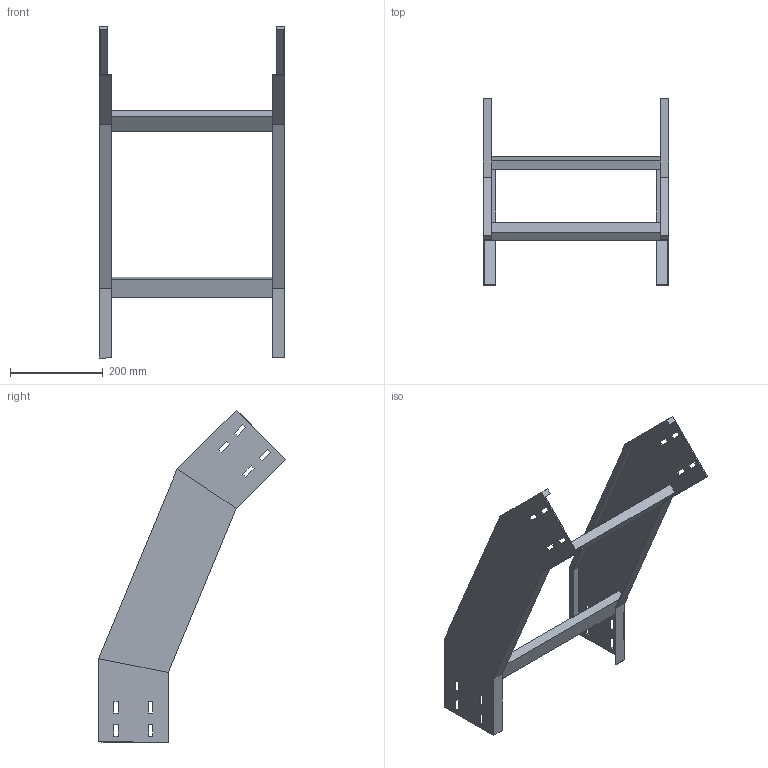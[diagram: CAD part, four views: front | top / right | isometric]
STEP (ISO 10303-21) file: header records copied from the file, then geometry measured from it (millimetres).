
FILE_DESCRIPTION (( 'STEP AP214' ), '1' );
FILE_NAME ('34J5F400.step', '2025-02-21T16:22:03', ( '' ), ( '' ), 'SwSTEP 2.0', 'SolidWorks 2023', '' );
FILE_SCHEMA (( 'AUTOMOTIVE_DESIGN' ));
Length unit declared in the file: millimetre
Products named in the file (3): LONGH.DISCESA_45°_H150_R500; TRAVERSINO_400; 34J5F400
Assembly tree (4 placements, depth 2):
  34J5F400
    LONGH.DISCESA_45°_H150_R500  x2
    TRAVERSINO_400  x2
Bounding box: 400 x 402.63 x 715.98 mm (x, y, z)
Volume: 1454572 mm3; surface area: 667185.9 mm2
Topology: 4 solids, 4 shells, 128 faces, 328 edges, 208 vertices
Faces by surface type: plane 128
Entity records: 2016 total; most frequent: CARTESIAN_POINT 339, ORIENTED_EDGE 328, DIRECTION 306, VECTOR 164, LINE 164, EDGE_CURVE 164, VERTEX_POINT 104, EDGE_LOOP 80
